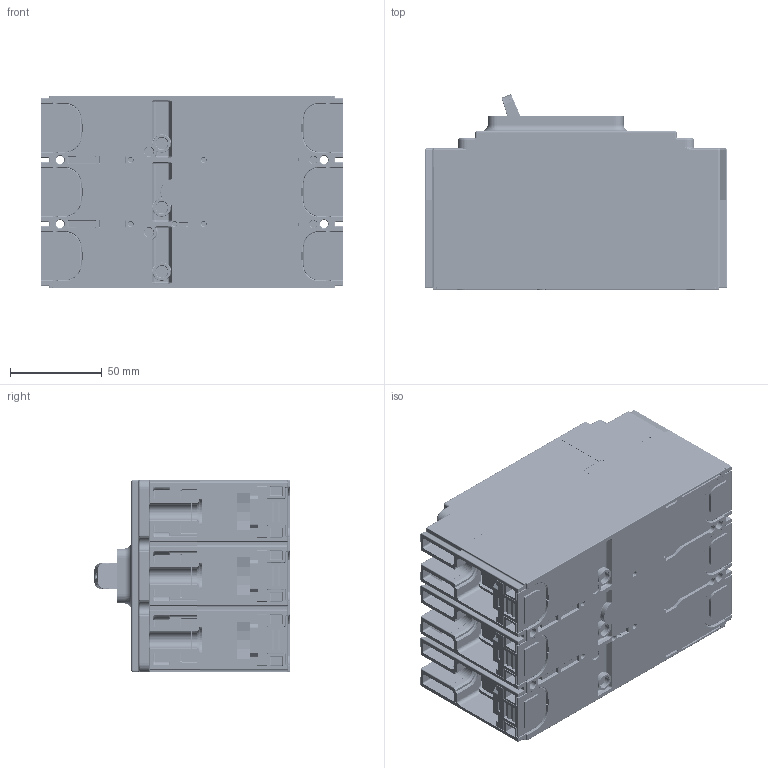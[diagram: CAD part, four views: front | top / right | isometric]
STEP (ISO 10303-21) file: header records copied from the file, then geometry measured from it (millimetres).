
FILE_DESCRIPTION((''),'2;1');
FILE_NAME('HGP250-G-3P_SIMP_ASM','2020-06-15T',('HHI'),(''),'PRO/ENGINEER BY PARAMETRIC TECHNOLOGY CORPORATION, 2017170','PRO/ENGINEER BY PARAMETRIC TECHNOLOGY CORPORATION, 2017170','');
FILE_SCHEMA(('CONFIG_CONTROL_DESIGN'));
Products named in the file (14): GP2_3P_BASE; GP2_3P_MAIN_COVER; GP2_3P_TRIP_COVER; GP2_FRONT_COVER; GP2_HANDLE; GP2_HANDLE_PRINT; GP2_ON_OFF_PRINTED_HANDLE_ASSY_ASM; GP2_TRIP_BUTTON; GP2_TERMINAL_BASE; GP2_KNOB_PROTECTION_COVER; M3_L12_PH_TAPPING_SCREW; M3_L25_PH_TAPPING_SCREW; M3_5_L30_PH_TAPPING_SCREW; HGP250-G-3P_SIMP_ASM
Assembly tree (21 placements, depth 3):
  HGP250-G-3P_SIMP_ASM
    GP2_3P_BASE
    GP2_3P_MAIN_COVER
    GP2_3P_TRIP_COVER
    GP2_FRONT_COVER
    GP2_ON_OFF_PRINTED_HANDLE_ASSY_ASM
      GP2_HANDLE
      GP2_HANDLE_PRINT
    GP2_TRIP_BUTTON
    GP2_TERMINAL_BASE  x6
    GP2_KNOB_PROTECTION_COVER
    M3_L12_PH_TAPPING_SCREW  x2
    M3_L25_PH_TAPPING_SCREW  x2
    M3_5_L30_PH_TAPPING_SCREW  x2
Bounding box: 165 x 106.56 x 105 mm (x, y, z)
Volume: 1217590.1 mm3; surface area: 248977.7 mm2
Topology: 23 solids, 31 shells, 6331 faces, 16077 edges, 9826 vertices
Faces by surface type: plane 2623, cylinder 2223, torus 444, sphere 358, bspline 303, cone 230, extrusion 150
Entity records: 182636 total; most frequent: CARTESIAN_POINT 53701, ORIENTED_EDGE 27180, DIRECTION 26696, EDGE_CURVE 13590, AXIS2_PLACEMENT_3D 9417, VERTEX_POINT 8356, VECTOR 7862, LINE 7712
